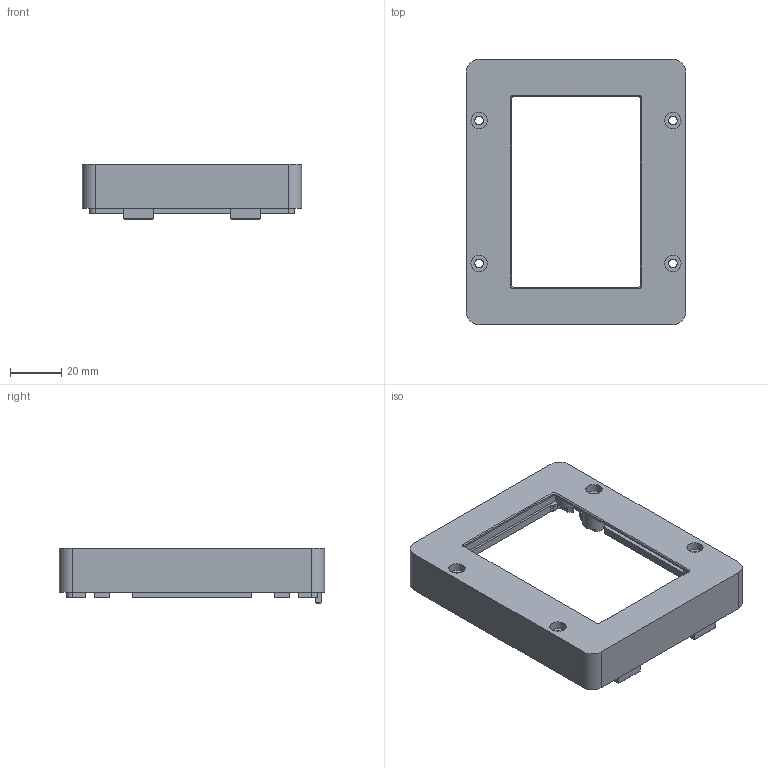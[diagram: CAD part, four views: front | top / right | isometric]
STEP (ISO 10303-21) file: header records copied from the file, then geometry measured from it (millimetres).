
FILE_DESCRIPTION(/* description */ (''),/* implementation_level */ '2;1');
FILE_NAME(/* name */ 'carrier-top.step',/* time_stamp */ '2026-10-03T13:53:28-07:00',/* author */ (''),/* organization */ (''),/* preprocessor_version */ 'ST-DEVELOPER v20.2',/* originating_system */ 'Autodesk Translation Framework v15.15.0.0',/* authorisation */ '');
FILE_SCHEMA (('AUTOMOTIVE_DESIGN { 1 0 10303 214 3 1 1 }'));
Length unit declared in the file: centimetre
Products named in the file (1): 02 Top bezel - direct glass seat and 4.2mm pilots
Bounding box: 86 x 104 x 21.9 mm (x, y, z)
Volume: 31160.7 mm3; surface area: 27539.3 mm2
Topology: 1 solids, 1 shells, 185 faces, 494 edges, 325 vertices
Faces by surface type: plane 120, cylinder 64, bspline 1
Full cylindrical faces by diameter (mm): 3.4 x4, 4.2 x4, 6.4 x4, 9 x4
Entity records: 6095 total; most frequent: CARTESIAN_POINT 1261, DIRECTION 1023, ORIENTED_EDGE 988, EDGE_CURVE 494, AXIS2_PLACEMENT_3D 345, LINE 333, VECTOR 333, VERTEX_POINT 325
